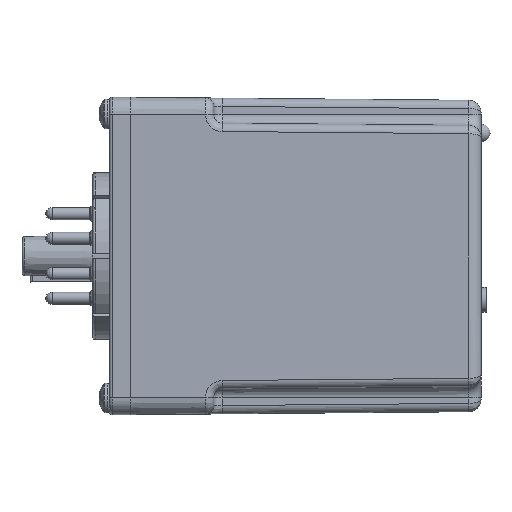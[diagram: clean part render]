
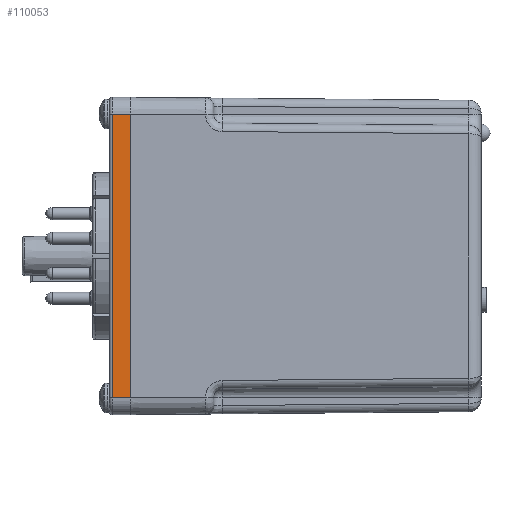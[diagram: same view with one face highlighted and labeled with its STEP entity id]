
A CAD part, left-side view. The second image highlights one B-rep face of the part: STEP entity #110053.
In plain terms, the highlighted planar face has unit normal (-1, 0, 0).
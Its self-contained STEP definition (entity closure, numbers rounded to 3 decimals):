
#89915 = PLANE('',#89916);
#89916 = AXIS2_PLACEMENT_3D('',#89917,#89918,#89919);
#89917 = CARTESIAN_POINT('',(-22.225,56.54,-30.163));
#89918 = DIRECTION('',(0.,1.,0.));
#89919 = DIRECTION('',(1.,0.,-0.));
#96838 = VERTEX_POINT('',#96839);
#96839 = CARTESIAN_POINT('',(-22.225,56.54,26.988));
#96858 = CYLINDRICAL_SURFACE('',#96859,3.175);
#96859 = AXIS2_PLACEMENT_3D('',#96860,#96861,#96862);
#96860 = CARTESIAN_POINT('',(-19.05,56.54,26.988));
#96861 = DIRECTION('',(0.,1.,0.));
#96862 = DIRECTION('',(0.,0.,-1.));
#96870 = EDGE_CURVE('',#96871,#96838,#96873,.T.);
#96871 = VERTEX_POINT('',#96872);
#96872 = CARTESIAN_POINT('',(-22.225,56.54,-26.988));
#96873 = SURFACE_CURVE('',#96874,(#96878,#96885),.PCURVE_S1.);
#96874 = LINE('',#96875,#96876);
#96875 = CARTESIAN_POINT('',(-22.225,56.54,-30.163));
#96876 = VECTOR('',#96877,1.);
#96877 = DIRECTION('',(0.,-0.,1.));
#96878 = PCURVE('',#89915,#96879);
#96879 = DEFINITIONAL_REPRESENTATION('',(#96880),#96884);
#96880 = LINE('',#96881,#96882);
#96881 = CARTESIAN_POINT('',(0.,0.));
#96882 = VECTOR('',#96883,1.);
#96883 = DIRECTION('',(0.,-1.));
#96884 = ( GEOMETRIC_REPRESENTATION_CONTEXT(2) 
PARAMETRIC_REPRESENTATION_CONTEXT() REPRESENTATION_CONTEXT('2D SPACE',''
  ) );
#96885 = PCURVE('',#96886,#96891);
#96886 = PLANE('',#96887);
#96887 = AXIS2_PLACEMENT_3D('',#96888,#96889,#96890);
#96888 = CARTESIAN_POINT('',(-22.225,56.54,-30.163));
#96889 = DIRECTION('',(1.,0.,0.));
#96890 = DIRECTION('',(0.,0.,-1.));
#96891 = DEFINITIONAL_REPRESENTATION('',(#96892),#96896);
#96892 = LINE('',#96893,#96894);
#96893 = CARTESIAN_POINT('',(0.,0.));
#96894 = VECTOR('',#96895,1.);
#96895 = DIRECTION('',(-1.,0.));
#96896 = ( GEOMETRIC_REPRESENTATION_CONTEXT(2) 
PARAMETRIC_REPRESENTATION_CONTEXT() REPRESENTATION_CONTEXT('2D SPACE',''
  ) );
#96919 = CYLINDRICAL_SURFACE('',#96920,3.175);
#96920 = AXIS2_PLACEMENT_3D('',#96921,#96922,#96923);
#96921 = CARTESIAN_POINT('',(-19.05,60.503,-26.988));
#96922 = DIRECTION('',(0.,-1.,0.));
#96923 = DIRECTION('',(0.,0.,1.));
#105132 = CYLINDRICAL_SURFACE('',#105133,0.508);
#105133 = AXIS2_PLACEMENT_3D('',#105134,#105135,#105136);
#105134 = CARTESIAN_POINT('',(-21.717,59.995,-30.163));
#105135 = DIRECTION('',(0.,0.,1.));
#105136 = DIRECTION('',(1.,0.,0.));
#110053 = ADVANCED_FACE('',(#110054),#96886,.F.);
#110054 = FACE_BOUND('',#110055,.T.);
#110055 = EDGE_LOOP('',(#110056,#110079,#110102,#110123));
#110056 = ORIENTED_EDGE('',*,*,#110057,.T.);
#110057 = EDGE_CURVE('',#96838,#110058,#110060,.T.);
#110058 = VERTEX_POINT('',#110059);
#110059 = CARTESIAN_POINT('',(-22.225,59.995,26.988));
#110060 = SURFACE_CURVE('',#110061,(#110065,#110072),.PCURVE_S1.);
#110061 = LINE('',#110062,#110063);
#110062 = CARTESIAN_POINT('',(-22.225,56.54,26.988));
#110063 = VECTOR('',#110064,1.);
#110064 = DIRECTION('',(0.,1.,0.));
#110065 = PCURVE('',#96886,#110066);
#110066 = DEFINITIONAL_REPRESENTATION('',(#110067),#110071);
#110067 = LINE('',#110068,#110069);
#110068 = CARTESIAN_POINT('',(-57.15,0.));
#110069 = VECTOR('',#110070,1.);
#110070 = DIRECTION('',(0.,1.));
#110071 = ( GEOMETRIC_REPRESENTATION_CONTEXT(2) 
PARAMETRIC_REPRESENTATION_CONTEXT() REPRESENTATION_CONTEXT('2D SPACE',''
  ) );
#110072 = PCURVE('',#96858,#110073);
#110073 = DEFINITIONAL_REPRESENTATION('',(#110074),#110078);
#110074 = LINE('',#110075,#110076);
#110075 = CARTESIAN_POINT('',(1.571,0.));
#110076 = VECTOR('',#110077,1.);
#110077 = DIRECTION('',(0.,1.));
#110078 = ( GEOMETRIC_REPRESENTATION_CONTEXT(2) 
PARAMETRIC_REPRESENTATION_CONTEXT() REPRESENTATION_CONTEXT('2D SPACE',''
  ) );
#110079 = ORIENTED_EDGE('',*,*,#110080,.T.);
#110080 = EDGE_CURVE('',#110058,#110081,#110083,.T.);
#110081 = VERTEX_POINT('',#110082);
#110082 = CARTESIAN_POINT('',(-22.225,59.995,-26.988));
#110083 = SURFACE_CURVE('',#110084,(#110088,#110095),.PCURVE_S1.);
#110084 = LINE('',#110085,#110086);
#110085 = CARTESIAN_POINT('',(-22.225,59.995,-30.163));
#110086 = VECTOR('',#110087,1.);
#110087 = DIRECTION('',(0.,0.,-1.));
#110088 = PCURVE('',#96886,#110089);
#110089 = DEFINITIONAL_REPRESENTATION('',(#110090),#110094);
#110090 = LINE('',#110091,#110092);
#110091 = CARTESIAN_POINT('',(0.,3.454));
#110092 = VECTOR('',#110093,1.);
#110093 = DIRECTION('',(1.,0.));
#110094 = ( GEOMETRIC_REPRESENTATION_CONTEXT(2) 
PARAMETRIC_REPRESENTATION_CONTEXT() REPRESENTATION_CONTEXT('2D SPACE',''
  ) );
#110095 = PCURVE('',#105132,#110096);
#110096 = DEFINITIONAL_REPRESENTATION('',(#110097),#110101);
#110097 = LINE('',#110098,#110099);
#110098 = CARTESIAN_POINT('',(3.142,0.));
#110099 = VECTOR('',#110100,1.);
#110100 = DIRECTION('',(0.,-1.));
#110101 = ( GEOMETRIC_REPRESENTATION_CONTEXT(2) 
PARAMETRIC_REPRESENTATION_CONTEXT() REPRESENTATION_CONTEXT('2D SPACE',''
  ) );
#110102 = ORIENTED_EDGE('',*,*,#110103,.T.);
#110103 = EDGE_CURVE('',#110081,#96871,#110104,.T.);
#110104 = SURFACE_CURVE('',#110105,(#110109,#110116),.PCURVE_S1.);
#110105 = LINE('',#110106,#110107);
#110106 = CARTESIAN_POINT('',(-22.225,56.54,-26.988));
#110107 = VECTOR('',#110108,1.);
#110108 = DIRECTION('',(0.,-1.,0.));
#110109 = PCURVE('',#96886,#110110);
#110110 = DEFINITIONAL_REPRESENTATION('',(#110111),#110115);
#110111 = LINE('',#110112,#110113);
#110112 = CARTESIAN_POINT('',(-3.175,0.));
#110113 = VECTOR('',#110114,1.);
#110114 = DIRECTION('',(0.,-1.));
#110115 = ( GEOMETRIC_REPRESENTATION_CONTEXT(2) 
PARAMETRIC_REPRESENTATION_CONTEXT() REPRESENTATION_CONTEXT('2D SPACE',''
  ) );
#110116 = PCURVE('',#96919,#110117);
#110117 = DEFINITIONAL_REPRESENTATION('',(#110118),#110122);
#110118 = LINE('',#110119,#110120);
#110119 = CARTESIAN_POINT('',(1.571,3.962));
#110120 = VECTOR('',#110121,1.);
#110121 = DIRECTION('',(0.,1.));
#110122 = ( GEOMETRIC_REPRESENTATION_CONTEXT(2) 
PARAMETRIC_REPRESENTATION_CONTEXT() REPRESENTATION_CONTEXT('2D SPACE',''
  ) );
#110123 = ORIENTED_EDGE('',*,*,#96870,.T.);
